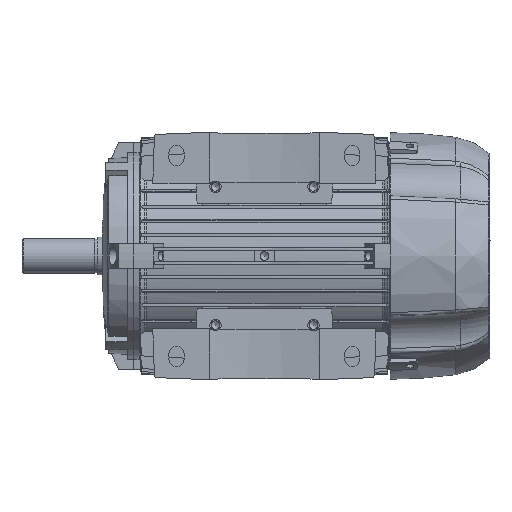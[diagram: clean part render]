
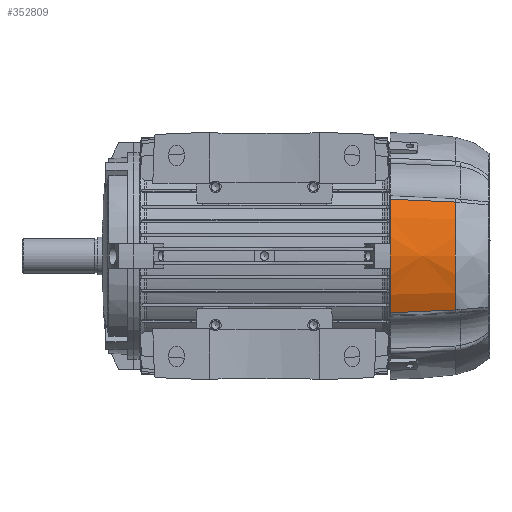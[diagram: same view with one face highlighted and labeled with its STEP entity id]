
A CAD part, front view. The second image highlights one B-rep face of the part: STEP entity #352809.
In plain terms, the highlighted free-form (B-spline) face has degree [2, 2] with [3, 3] control points.
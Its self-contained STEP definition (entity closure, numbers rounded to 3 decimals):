
#351407=CARTESIAN_POINT('',(-45.198,-87.068,0.));
#351408=VERTEX_POINT('',#351407);
#351416=CARTESIAN_POINT('',(45.198,-87.068,0.));
#351417=VERTEX_POINT('',#351416);
#351418=CARTESIAN_POINT('',(0.,0.,0.));
#351419=DIRECTION('',(0.0,0.0,1.0));
#351420=DIRECTION('',(0.0,1.0,0.0));
#351421=AXIS2_PLACEMENT_3D('',#351418,#351419,#351420);
#351422=CIRCLE('',#351421,98.1);
#351423=EDGE_CURVE('',#351408,#351417,#351422,.T.);
#352717=CARTESIAN_POINT('',(42.939,-84.238,-51.818));
#352718=VERTEX_POINT('',#352717);
#352719=CARTESIAN_POINT('',(45.198,-87.068,0.));
#352720=CARTESIAN_POINT('',(45.198,-87.068,-8.672));
#352721=CARTESIAN_POINT('',(44.997,-86.838,-17.326));
#352722=CARTESIAN_POINT('',(44.226,-85.905,-34.598));
#352723=CARTESIAN_POINT('',(43.655,-85.202,-43.217));
#352724=CARTESIAN_POINT('',(42.939,-84.238,-51.818));
#352725=B_SPLINE_CURVE_WITH_KNOTS('',3,(#352719,#352720,#352721,#352722,#352723,#352724),.UNSPECIFIED.,.F.,.U.,(4,2,4),(0.0,0.5,1.0),.UNSPECIFIED.);
#352726=EDGE_CURVE('',#351417,#352718,#352725,.T.);
#352739=CARTESIAN_POINT('',(-46.381,-86.443,0.));
#352740=CARTESIAN_POINT('',(-46.381,-86.443,-26.031));
#352741=CARTESIAN_POINT('',(-44.703,-83.315,-51.818));
#352742=CARTESIAN_POINT('',(0.,-111.329,0.));
#352743=CARTESIAN_POINT('',(0.,-111.329,-26.031));
#352744=CARTESIAN_POINT('',(0.,-107.301,-51.818));
#352745=CARTESIAN_POINT('',(46.381,-86.443,0.));
#352746=CARTESIAN_POINT('',(46.381,-86.443,-26.031));
#352747=CARTESIAN_POINT('',(44.703,-83.315,-51.818));
#352755=(BOUNDED_SURFACE()B_SPLINE_SURFACE(2,2,((#352739,#352742,#352745),(#352740,#352743,#352746),(#352741,#352744,#352747)),.UNSPECIFIED.,.F.,.F.,.U.)B_SPLINE_SURFACE_WITH_KNOTS((3,3),(3,3),(0.,0.137),(0.0,0.985),.UNSPECIFIED.)GEOMETRIC_REPRESENTATION_ITEM()RATIONAL_B_SPLINE_SURFACE(((1.0,0.881,1.0),(0.998,0.879,0.998),(1.0,0.881,1.0)))REPRESENTATION_ITEM('')SURFACE());
#352756=CARTESIAN_POINT('',(-42.939,-84.238,-51.818));
#352757=VERTEX_POINT('',#352756);
#352758=CARTESIAN_POINT('',(0.,0.,-51.818));
#352759=DIRECTION('',(0.0,0.0,1.0));
#352760=DIRECTION('',(0.0,-1.0,0.0));
#352761=AXIS2_PLACEMENT_3D('',#352758,#352759,#352760);
#352762=CIRCLE('',#352761,94.55);
#352763=EDGE_CURVE('',#352757,#352718,#352762,.T.);
#352764=ORIENTED_EDGE('',*,*,#352763,.T.);
#352765=ORIENTED_EDGE('',*,*,#352726,.F.);
#352766=ORIENTED_EDGE('',*,*,#351423,.F.);
#352767=CARTESIAN_POINT('',(-45.198,-87.068,0.));
#352768=CARTESIAN_POINT('',(-45.198,-87.068,-2.468));
#352769=CARTESIAN_POINT('',(-45.181,-87.049,-4.961));
#352770=CARTESIAN_POINT('',(-45.125,-86.984,-9.231));
#352771=CARTESIAN_POINT('',(-45.094,-86.947,-10.995));
#352772=CARTESIAN_POINT('',(-45.006,-86.844,-14.934));
#352773=CARTESIAN_POINT('',(-44.945,-86.772,-17.116));
#352774=CARTESIAN_POINT('',(-44.834,-86.64,-20.414));
#352775=CARTESIAN_POINT('',(-44.794,-86.592,-21.518));
#352776=CARTESIAN_POINT('',(-44.729,-86.514,-23.179));
#352777=CARTESIAN_POINT('',(-44.707,-86.487,-23.734));
#352778=CARTESIAN_POINT('',(-44.672,-86.445,-24.569));
#352779=CARTESIAN_POINT('',(-44.654,-86.423,-24.986));
#352780=CARTESIAN_POINT('',(-44.636,-86.401,-25.404));
#352781=CARTESIAN_POINT('',(-44.624,-86.387,-25.665));
#352782=CARTESIAN_POINT('',(-44.619,-86.381,-25.787));
#352783=CARTESIAN_POINT('',(-44.613,-86.373,-25.927));
#352784=CARTESIAN_POINT('',(-44.612,-86.372,-25.946));
#352785=CARTESIAN_POINT('',(-44.555,-86.304,-27.216));
#352786=CARTESIAN_POINT('',(-44.494,-86.229,-28.499));
#352787=CARTESIAN_POINT('',(-44.387,-86.099,-30.601));
#352788=CARTESIAN_POINT('',(-44.345,-86.047,-31.404));
#352789=CARTESIAN_POINT('',(-44.228,-85.903,-33.535));
#352790=CARTESIAN_POINT('',(-44.15,-85.806,-34.881));
#352791=CARTESIAN_POINT('',(-44.013,-85.635,-37.117));
#352792=CARTESIAN_POINT('',(-43.958,-85.566,-37.991));
#352793=CARTESIAN_POINT('',(-43.9,-85.493,-38.885));
#352794=CARTESIAN_POINT('',(-43.899,-85.492,-38.896));
#352795=CARTESIAN_POINT('',(-43.837,-85.412,-39.862));
#352796=CARTESIAN_POINT('',(-43.77,-85.328,-40.851));
#352797=CARTESIAN_POINT('',(-43.629,-85.147,-42.886));
#352798=CARTESIAN_POINT('',(-43.554,-85.05,-43.931));
#352799=CARTESIAN_POINT('',(-43.395,-84.844,-46.08));
#352800=CARTESIAN_POINT('',(-43.311,-84.733,-47.185));
#352801=CARTESIAN_POINT('',(-43.133,-84.497,-49.456));
#352802=CARTESIAN_POINT('',(-43.039,-84.372,-50.622));
#352803=CARTESIAN_POINT('',(-42.939,-84.238,-51.818));
#352804=B_SPLINE_CURVE_WITH_KNOTS('',3,(#352767,#352768,#352769,#352770,#352771,#352772,#352773,#352774,#352775,#352776,#352777,#352778,#352779,#352780,#352781,#352782,#352783,#352784,#352785,#352786,#352787,#352788,#352789,#352790,#352791,#352792,#352793,#352794,#352795,#352796,#352797,#352798,#352799,#352800,#352801,#352802,#352803),.UNSPECIFIED.,.F.,.U.,(4,2,2,2,2,2,1,2,2,2,2,2,2,2,2,2,2,2,4),(0.0,0.147,0.25,0.375,0.437,0.469,0.484,0.492,0.499,0.5,0.578,0.625,0.701,0.75,0.75,0.813,0.875,0.938,1.0),.UNSPECIFIED.);
#352805=EDGE_CURVE('',#351408,#352757,#352804,.T.);
#352806=ORIENTED_EDGE('',*,*,#352805,.T.);
#352807=EDGE_LOOP('',(#352764,#352765,#352766,#352806));
#352808=FACE_OUTER_BOUND('',#352807,.T.);
#352809=ADVANCED_FACE('',(#352808),#352755,.T.);
